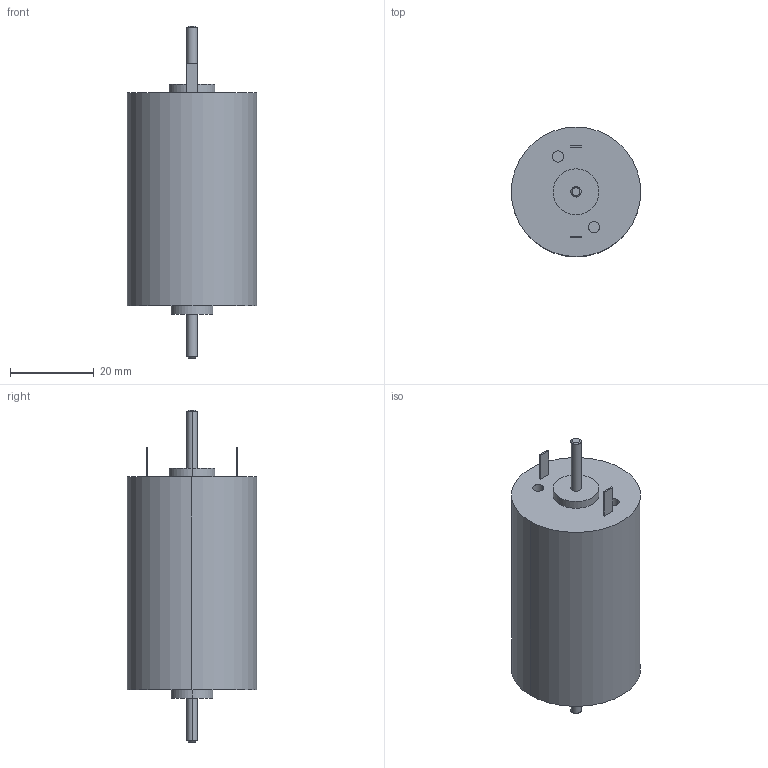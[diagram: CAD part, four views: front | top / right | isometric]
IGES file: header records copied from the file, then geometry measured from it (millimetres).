
Start section: Elysium IGES Interface
Global section: file name: P:\wetzstein\GHofmann\Katalogzeichnungen\Modelle\1.13.021.318.igs; native system: SolidDesigner 14.00B  27-May-2006; preprocessor: OneSpace IGES_3D V2.2; author: Unknown; organization: Unknown; date: 20081017.083843; units: millimetre
Bounding box: 31 x 31 x 79.5 mm (x, y, z)
Volume: 38891.3 mm3; surface area: 7152 mm2
Topology: 1 solids, 1 shells, 48 faces, 98 edges, 64 vertices
Faces by surface type: bspline 48
